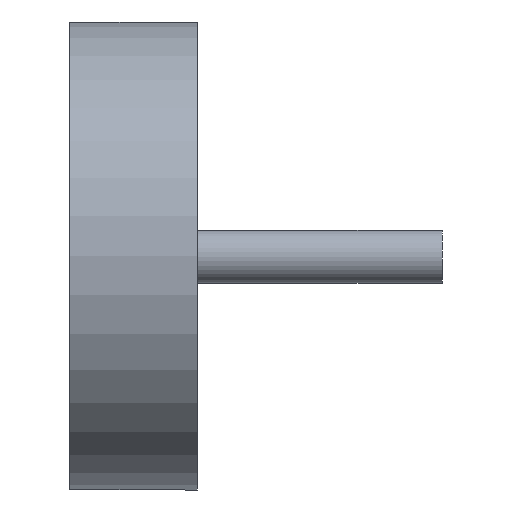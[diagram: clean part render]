
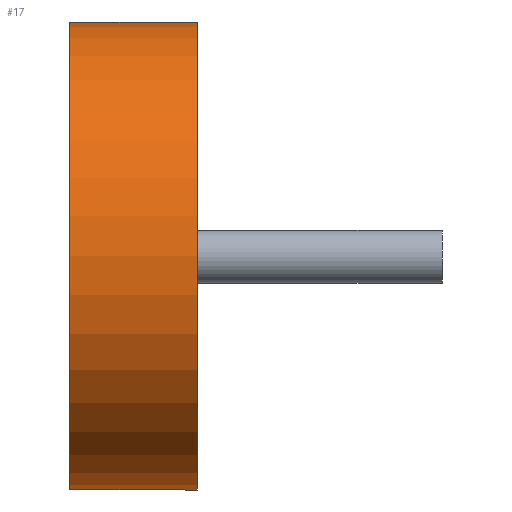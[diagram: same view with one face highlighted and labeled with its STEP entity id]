
A CAD part, top view. The second image highlights one B-rep face of the part: STEP entity #17.
In plain terms, the highlighted cylindrical face has radius 22 mm (diameter 44 mm), a partial arc.
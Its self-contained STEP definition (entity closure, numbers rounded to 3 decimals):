
#17 = ADVANCED_FACE('',(#18),#33,.T.);
#18 = FACE_BOUND('',#19,.T.);
#19 = EDGE_LOOP('',(#20,#56,#82,#115));
#20 = ORIENTED_EDGE('',*,*,#21,.T.);
#21 = EDGE_CURVE('',#22,#24,#26,.T.);
#22 = VERTEX_POINT('',#23);
#23 = CARTESIAN_POINT('',(-6.,9.,-20.075));
#24 = VERTEX_POINT('',#25);
#25 = CARTESIAN_POINT('',(-6.,-9.,-20.075));
#26 = SURFACE_CURVE('',#27,(#32,#44),.PCURVE_S1.);
#27 = CIRCLE('',#28,22.);
#28 = AXIS2_PLACEMENT_3D('',#29,#30,#31);
#29 = CARTESIAN_POINT('',(-6.,0.,0.));
#30 = DIRECTION('',(1.,-0.,0.));
#31 = DIRECTION('',(0.,0.409,-0.912));
#32 = PCURVE('',#33,#38);
#33 = CYLINDRICAL_SURFACE('',#34,22.);
#34 = AXIS2_PLACEMENT_3D('',#35,#36,#37);
#35 = CARTESIAN_POINT('',(-6.,0.,0.));
#36 = DIRECTION('',(1.,0.,0.));
#37 = DIRECTION('',(-0.,0.,1.));
#38 = DEFINITIONAL_REPRESENTATION('',(#39),#43);
#39 = LINE('',#40,#41);
#40 = CARTESIAN_POINT('',(3.563,0.));
#41 = VECTOR('',#42,1.);
#42 = DIRECTION('',(1.,0.));
#43 = ( GEOMETRIC_REPRESENTATION_CONTEXT(2) 
PARAMETRIC_REPRESENTATION_CONTEXT() REPRESENTATION_CONTEXT('2D SPACE',''
  ) );
#44 = PCURVE('',#45,#50);
#45 = PLANE('',#46);
#46 = AXIS2_PLACEMENT_3D('',#47,#48,#49);
#47 = CARTESIAN_POINT('',(-6.,0.,0.));
#48 = DIRECTION('',(1.,0.,0.));
#49 = DIRECTION('',(-0.,0.,1.));
#50 = DEFINITIONAL_REPRESENTATION('',(#51),#55);
#51 = CIRCLE('',#52,22.);
#52 = AXIS2_PLACEMENT_2D('',#53,#54);
#53 = CARTESIAN_POINT('',(0.,0.));
#54 = DIRECTION('',(-0.912,-0.409));
#55 = ( GEOMETRIC_REPRESENTATION_CONTEXT(2) 
PARAMETRIC_REPRESENTATION_CONTEXT() REPRESENTATION_CONTEXT('2D SPACE',''
  ) );
#56 = ORIENTED_EDGE('',*,*,#57,.T.);
#57 = EDGE_CURVE('',#24,#58,#60,.T.);
#58 = VERTEX_POINT('',#59);
#59 = CARTESIAN_POINT('',(6.,-9.,-20.075));
#60 = SURFACE_CURVE('',#61,(#65,#71),.PCURVE_S1.);
#61 = LINE('',#62,#63);
#62 = CARTESIAN_POINT('',(-6.,-9.,-20.075));
#63 = VECTOR('',#64,1.);
#64 = DIRECTION('',(1.,0.,0.));
#65 = PCURVE('',#33,#66);
#66 = DEFINITIONAL_REPRESENTATION('',(#67),#70);
#67 = B_SPLINE_CURVE_WITH_KNOTS('',1,(#68,#69),.UNSPECIFIED.,.F.,.F.,(2,
    2),(0.,12.),.PIECEWISE_BEZIER_KNOTS.);
#68 = CARTESIAN_POINT('',(9.003,0.));
#69 = CARTESIAN_POINT('',(9.003,12.));
#70 = ( GEOMETRIC_REPRESENTATION_CONTEXT(2) 
PARAMETRIC_REPRESENTATION_CONTEXT() REPRESENTATION_CONTEXT('2D SPACE',''
  ) );
#71 = PCURVE('',#72,#77);
#72 = PLANE('',#73);
#73 = AXIS2_PLACEMENT_3D('',#74,#75,#76);
#74 = CARTESIAN_POINT('',(-6.,-9.,-176.));
#75 = DIRECTION('',(0.,1.,0.));
#76 = DIRECTION('',(0.,0.,1.));
#77 = DEFINITIONAL_REPRESENTATION('',(#78),#81);
#78 = B_SPLINE_CURVE_WITH_KNOTS('',1,(#79,#80),.UNSPECIFIED.,.F.,.F.,(2,
    2),(0.,12.),.PIECEWISE_BEZIER_KNOTS.);
#79 = CARTESIAN_POINT('',(155.925,0.));
#80 = CARTESIAN_POINT('',(155.925,12.));
#81 = ( GEOMETRIC_REPRESENTATION_CONTEXT(2) 
PARAMETRIC_REPRESENTATION_CONTEXT() REPRESENTATION_CONTEXT('2D SPACE',''
  ) );
#82 = ORIENTED_EDGE('',*,*,#83,.T.);
#83 = EDGE_CURVE('',#58,#84,#86,.T.);
#84 = VERTEX_POINT('',#85);
#85 = CARTESIAN_POINT('',(6.,9.,-20.075));
#86 = SURFACE_CURVE('',#87,(#92,#99),.PCURVE_S1.);
#87 = CIRCLE('',#88,22.);
#88 = AXIS2_PLACEMENT_3D('',#89,#90,#91);
#89 = CARTESIAN_POINT('',(6.,0.,0.));
#90 = DIRECTION('',(-1.,-0.,0.));
#91 = DIRECTION('',(0.,-0.409,-0.912));
#92 = PCURVE('',#33,#93);
#93 = DEFINITIONAL_REPRESENTATION('',(#94),#98);
#94 = LINE('',#95,#96);
#95 = CARTESIAN_POINT('',(9.003,12.));
#96 = VECTOR('',#97,1.);
#97 = DIRECTION('',(-1.,-0.));
#98 = ( GEOMETRIC_REPRESENTATION_CONTEXT(2) 
PARAMETRIC_REPRESENTATION_CONTEXT() REPRESENTATION_CONTEXT('2D SPACE',''
  ) );
#99 = PCURVE('',#100,#105);
#100 = PLANE('',#101);
#101 = AXIS2_PLACEMENT_3D('',#102,#103,#104);
#102 = CARTESIAN_POINT('',(6.,0.,0.));
#103 = DIRECTION('',(1.,0.,0.));
#104 = DIRECTION('',(-0.,0.,1.));
#105 = DEFINITIONAL_REPRESENTATION('',(#106),#114);
#106 = ( BOUNDED_CURVE() B_SPLINE_CURVE(2,(#107,#108,#109,#110,#111,#112
,#113),.UNSPECIFIED.,.T.,.F.) B_SPLINE_CURVE_WITH_KNOTS((1,2,2,2,2,1),(
    -2.094,0.,2.094,4.189,6.283,
8.378),.UNSPECIFIED.) CURVE() GEOMETRIC_REPRESENTATION_ITEM() 
RATIONAL_B_SPLINE_CURVE((1.,0.5,1.,0.5,1.,0.5,1.)) REPRESENTATION_ITEM(
  '') );
#107 = CARTESIAN_POINT('',(-20.075,9.));
#108 = CARTESIAN_POINT('',(-4.486,43.771));
#109 = CARTESIAN_POINT('',(17.832,12.885));
#110 = CARTESIAN_POINT('',(40.15,-18.));
#111 = CARTESIAN_POINT('',(2.243,-21.885));
#112 = CARTESIAN_POINT('',(-35.663,-25.771));
#113 = CARTESIAN_POINT('',(-20.075,9.));
#114 = ( GEOMETRIC_REPRESENTATION_CONTEXT(2) 
PARAMETRIC_REPRESENTATION_CONTEXT() REPRESENTATION_CONTEXT('2D SPACE',''
  ) );
#115 = ORIENTED_EDGE('',*,*,#116,.F.);
#116 = EDGE_CURVE('',#22,#84,#117,.T.);
#117 = SURFACE_CURVE('',#118,(#122,#128),.PCURVE_S1.);
#118 = LINE('',#119,#120);
#119 = CARTESIAN_POINT('',(-6.,9.,-20.075));
#120 = VECTOR('',#121,1.);
#121 = DIRECTION('',(1.,0.,0.));
#122 = PCURVE('',#33,#123);
#123 = DEFINITIONAL_REPRESENTATION('',(#124),#127);
#124 = B_SPLINE_CURVE_WITH_KNOTS('',1,(#125,#126),.UNSPECIFIED.,.F.,.F.,
  (2,2),(0.,12.),.PIECEWISE_BEZIER_KNOTS.);
#125 = CARTESIAN_POINT('',(3.563,0.));
#126 = CARTESIAN_POINT('',(3.563,12.));
#127 = ( GEOMETRIC_REPRESENTATION_CONTEXT(2) 
PARAMETRIC_REPRESENTATION_CONTEXT() REPRESENTATION_CONTEXT('2D SPACE',''
  ) );
#128 = PCURVE('',#129,#134);
#129 = PLANE('',#130);
#130 = AXIS2_PLACEMENT_3D('',#131,#132,#133);
#131 = CARTESIAN_POINT('',(-6.,9.,-176.));
#132 = DIRECTION('',(0.,1.,0.));
#133 = DIRECTION('',(0.,0.,1.));
#134 = DEFINITIONAL_REPRESENTATION('',(#135),#138);
#135 = B_SPLINE_CURVE_WITH_KNOTS('',1,(#136,#137),.UNSPECIFIED.,.F.,.F.,
  (2,2),(0.,12.),.PIECEWISE_BEZIER_KNOTS.);
#136 = CARTESIAN_POINT('',(155.925,0.));
#137 = CARTESIAN_POINT('',(155.925,12.));
#138 = ( GEOMETRIC_REPRESENTATION_CONTEXT(2) 
PARAMETRIC_REPRESENTATION_CONTEXT() REPRESENTATION_CONTEXT('2D SPACE',''
  ) );
